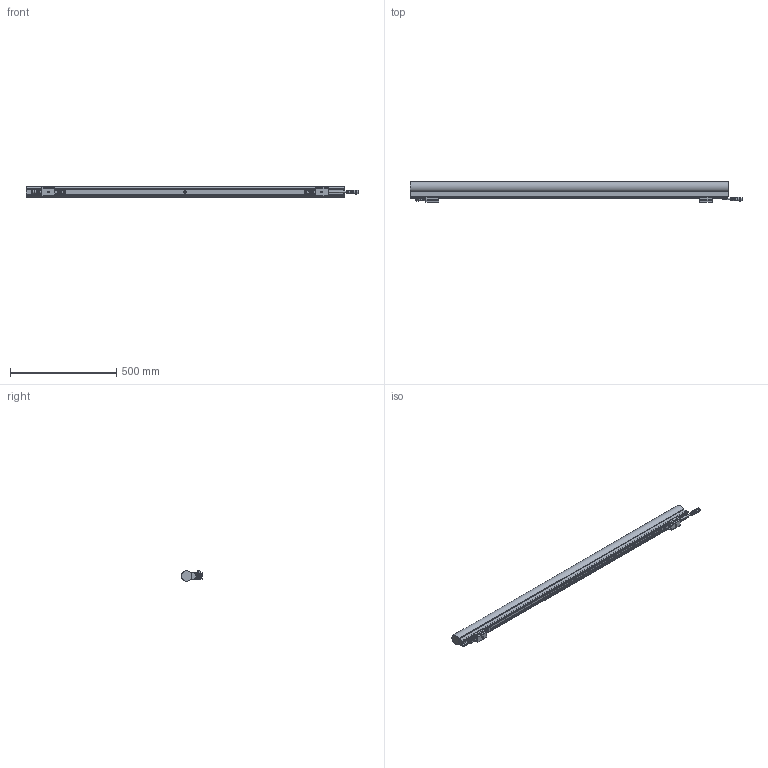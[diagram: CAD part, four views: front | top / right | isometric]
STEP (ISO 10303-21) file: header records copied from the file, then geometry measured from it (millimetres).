
FILE_DESCRIPTION (( 'STEP AP214' ), '1' );
FILE_NAME ('E series 2 Tube L1500.STEP', '2025-11-24T13:41:18', ( '' ), ( '' ), 'SwSTEP 2.0', 'SolidWorks 2025', '' );
FILE_SCHEMA (( 'AUTOMOTIVE_DESIGN' ));
Length unit declared in the file: millimetre
Products named in the file (12): E series 2 mounting clip bottom; Part2^E series 2; E series 2 with dome cover body and bare config_Bare 1500mm; Part1^E series 2; Counter sunk screw torx_M3x16; D & E Series 2 breathing valve; Counter sunk screw torx_M2.5x16; E series 2 Tube L1500; M16 5p Male; E series 2 mounting clip top; M16 5p Female; E series 2 with round cover body_1500mm
Assembly tree (27 placements, depth 2):
  E series 2 Tube L1500
    E series 2 with dome cover body and bare config_Bare 1500mm
    Counter sunk screw torx_M2.5x16  x12
    E series 2 mounting clip bottom  x2
    E series 2 mounting clip top  x2
    Counter sunk screw torx_M3x16  x4
    E series 2 with round cover body_1500mm
    M16 5p Female
    Part2^E series 2
    M16 5p Male
    Part1^E series 2
    D & E Series 2 breathing valve
Bounding box: 1565.55 x 98.61 x 49.96 mm (x, y, z)
Volume: 3885927 mm3; surface area: 465734.5 mm2
Topology: 29 solids, 32 shells, 1778 faces, 4424 edges, 2783 vertices
Faces by surface type: cylinder 740, plane 623, torus 141, bspline 130, cone 118, sphere 26
Full cylindrical faces by diameter (mm): 2.4 x2, 2.5 x12, 3 x4, 4.5 x12, 5.81 x4, 9.2 x1, 11.1 x1, 14.25 x1, 14.3 x1, 18 x1
Entity records: 61792 total; most frequent: CARTESIAN_POINT 20291, ORIENTED_EDGE 6990, DIRECTION 6601, EDGE_CURVE 3495, AXIS2_PLACEMENT_3D 2565, VERTEX_POINT 2207, EDGE_LOOP 1580, LINE 1471
